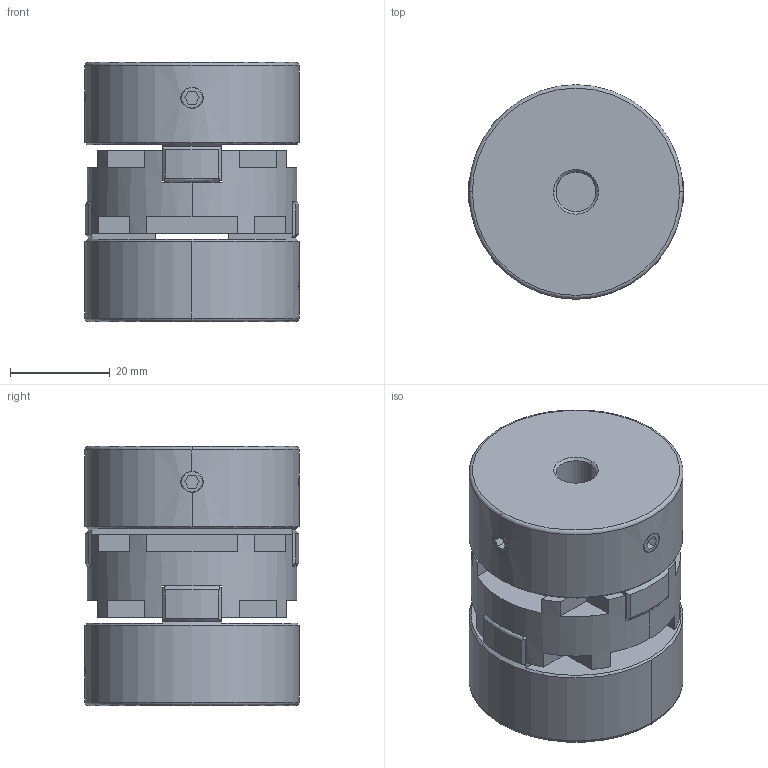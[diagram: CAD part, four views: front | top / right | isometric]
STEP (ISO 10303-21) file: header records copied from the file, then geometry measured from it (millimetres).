
FILE_DESCRIPTION (( 'STEP AP203' ), '1' );
FILE_NAME ('SOH-43-8X19_203.STEP', '2013-01-25T00:45:26', ( '' ), ( '' ), 'SwSTEP 2.0', 'SolidWorks 2012', '' );
FILE_SCHEMA (( 'CONFIG_CONTROL_DESIGN' ));
Length unit declared in the file: millimetre
Products named in the file (1): SOH-43-8X19_203
Bounding box: 43 x 43 x 52 mm (x, y, z)
Volume: 60018.3 mm3; surface area: 17153.1 mm2
Topology: 1 solids, 1 shells, 210 faces, 610 edges, 395 vertices
Faces by surface type: plane 135, cylinder 37, cone 20, torus 10, sphere 8
Entity records: 7462 total; most frequent: CARTESIAN_POINT 1834, ORIENTED_EDGE 1220, DIRECTION 1105, EDGE_CURVE 610, VERTEX_POINT 395, LINE 385, VECTOR 385, AXIS2_PLACEMENT_3D 360
